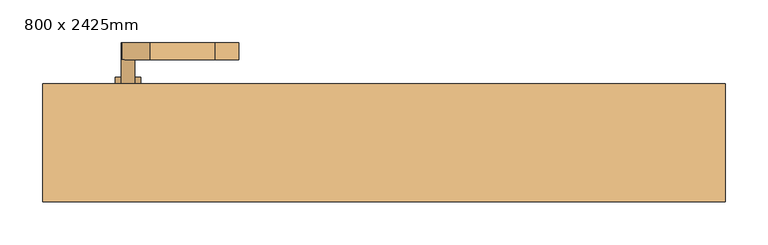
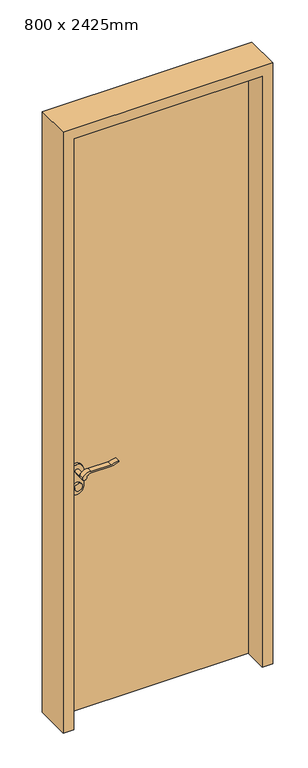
"""IFC4 building model written with IfcOpenShell, lengths in millimetres: door geometry, 单扇平开门 : 800 x 2425mm."""

from ifc_helpers import new_model, si_unit, point, frame, frame_2d, origin, origin_with_axes, place, context, project, spatial, polyline, circle_curve, trimmed, segment, composite_curve, outline, extrude, source, transform, mapped, element, save


def door_800_x_2425mm_65640e85(model_context):
    return source(origin(), model_context, "Body", "SweptSolid", [
        extrude(outline(composite_curve([segment(trimmed(circle_curve(frame_2d((904.4, -300.0)), 25.0), [point((904.4, -325.0))], [point((904.4, -275.0))], False, "CARTESIAN"), True, "CONTINUOUS"), segment(polyline([(904.4, -275.0), (974.4, -275.0)]), True, "CONTINUOUS"), segment(trimmed(circle_curve(frame_2d((974.4, -300.0)), 25.0), [point((974.4, -275.0))], [point((974.4, -325.0))], False, "CARTESIAN"), True, "CONTINUOUS"), segment(polyline([(974.4, -325.0), (904.4, -325.0)]), True, "CONTINUOUS")], self_intersect=False)), frame((0.0, 8.975, 0.0), z_axis=(0.0, 1.0, 0.0), x_axis=(0.0, 0.0, 1.0)), (0.0, 0.0, 1.0), 10.0),
        extrude(outline(composite_curve([segment(trimmed(circle_curve(frame_2d((904.4, -300.0)), 25.0), [point((904.4, -325.0))], [point((904.4, -275.0))], False, "CARTESIAN"), True, "CONTINUOUS"), segment(polyline([(904.4, -275.0), (974.4, -275.0)]), True, "CONTINUOUS"), segment(trimmed(circle_curve(frame_2d((974.4, -300.0)), 25.0), [point((974.4, -275.0))], [point((974.4, -325.0))], False, "CARTESIAN"), True, "CONTINUOUS"), segment(polyline([(974.4, -325.0), (904.4, -325.0)]), True, "CONTINUOUS")], self_intersect=False)), frame((0.0, 53.975, 0.0), z_axis=(0.0, 1.0, 0.0), x_axis=(0.0, 0.0, 1.0)), (0.0, 0.0, 1.0), 10.0),
        extrude(outline(composite_curve([segment(trimmed(circle_curve(frame_2d((974.4, -300.0)), 8.0), [point((974.4, -292.0))], [point((974.4, -308.0))], False, "CARTESIAN"), True, "CONTINUOUS"), segment(trimmed(circle_curve(frame_2d((974.4, -300.0)), 8.0), [point((974.4, -308.0))], [point((974.4, -292.0))], False, "CARTESIAN"), True, "CONTINUOUS")], self_intersect=False)), frame((0.0, -21.025, 0.0), z_axis=(0.0, 1.0, 0.0), x_axis=(0.0, 0.0, 1.0)), (0.0, 0.0, 1.0), 30.0),
        extrude(outline(composite_curve([segment(trimmed(circle_curve(frame_2d((974.4, -300.0)), 8.0), [point((974.4, -292.0))], [point((974.4, -308.0))], False, "CARTESIAN"), True, "CONTINUOUS"), segment(trimmed(circle_curve(frame_2d((974.4, -300.0)), 8.0), [point((974.4, -308.0))], [point((974.4, -292.0))], False, "CARTESIAN"), True, "CONTINUOUS")], self_intersect=False)), frame((0.0, 63.975, 0.0), z_axis=(0.0, 1.0, 0.0), x_axis=(0.0, 0.0, 1.0)), (0.0, 0.0, 1.0), 30.0),
        extrude(outline(composite_curve([segment(trimmed(circle_curve(frame_2d((969.2738682, -274.6138122)), 18.1261318), [point((974.3999903, -292.0))], [point((987.4, -274.6138122))], True, "CARTESIAN"), True, "CONTINUOUS"), segment(polyline([(987.4, -274.6138122), (987.4, -198.3564091)]), True, "CONTINUOUS"), segment(trimmed(circle_curve(frame_2d((1046.6709207, -201.9396612)), 59.3791355), [point((987.4, -198.3564091))], [point((996.6135558, -170.0))], False, "CARTESIAN"), True, "CONTINUOUS"), segment(polyline([(996.6135558, -170.0), (999.4, -170.0)]), True, "CONTINUOUS"), segment(trimmed(circle_curve(frame_2d((1077.6850638, -198.4227909)), 83.2850902), [point((999.4, -170.0))], [point((994.4, -198.3564091))], True, "CARTESIAN"), True, "CONTINUOUS"), segment(polyline([(994.4, -198.3564091), (994.4, -274.6325667)]), True, "CONTINUOUS"), segment(trimmed(circle_curve(frame_2d((957.1555521, -276.3324871)), 37.2832219), [point((994.4, -274.6325667))], [point((979.0523287, -306.5081363))], False, "CARTESIAN"), True, "CONTINUOUS"), segment(trimmed(circle_curve(frame_2d((974.4, -300.0)), 8.0), [point((979.0523287, -306.5081363))], [point((974.3999903, -292.0))], False, "CARTESIAN"), True, "CONTINUOUS")], self_intersect=False)), frame((0.0, -41.025, 0.0), z_axis=(0.0, 1.0, 0.0), x_axis=(0.0, 0.0, 1.0)), (0.0, 0.0, 1.0), 20.0),
        extrude(outline(composite_curve([segment(trimmed(circle_curve(frame_2d((974.4, -300.0)), 8.0), [point((979.0523287, -306.5081363))], [point((974.4, -292.0))], False, "CARTESIAN"), True, "CONTINUOUS"), segment(trimmed(circle_curve(frame_2d((969.2738613, -274.6138099)), 18.1261387), [point((974.4, -292.0))], [point((987.4, -274.6138099))], True, "CARTESIAN"), True, "CONTINUOUS"), segment(polyline([(987.4, -274.6138099), (987.4, -198.3564091)]), True, "CONTINUOUS"), segment(trimmed(circle_curve(frame_2d((1046.6709207, -201.9396612)), 59.3791355), [point((987.4, -198.3564091))], [point((996.6135558, -170.0))], False, "CARTESIAN"), True, "CONTINUOUS"), segment(polyline([(996.6135558, -170.0), (999.4, -170.0)]), True, "CONTINUOUS"), segment(trimmed(circle_curve(frame_2d((1077.6850638, -198.4227909)), 83.2850902), [point((999.4, -170.0))], [point((994.4, -198.3564091))], True, "CARTESIAN"), True, "CONTINUOUS"), segment(polyline([(994.4, -198.3564091), (994.4, -274.6325667)]), True, "CONTINUOUS"), segment(trimmed(circle_curve(frame_2d((957.1555521, -276.3324871)), 37.2832219), [point((994.4, -274.6325667))], [point((979.0523287, -306.5081363))], False, "CARTESIAN"), True, "CONTINUOUS")], self_intersect=False)), frame((0.0, 93.975, 0.0), z_axis=(0.0, 1.0, 0.0), x_axis=(0.0, 0.0, 1.0)), (0.0, 0.0, 1.0), 20.0),
        extrude(outline(composite_curve([segment(trimmed(circle_curve(frame_2d((914.4, -300.0)), 15.0), [point((914.4, -285.0))], [point((914.4, -315.0))], False, "CARTESIAN"), True, "CONTINUOUS"), segment(trimmed(circle_curve(frame_2d((914.4, -300.0)), 15.0), [point((914.4, -315.0))], [point((914.4, -285.0))], False, "CARTESIAN"), True, "CONTINUOUS")], self_intersect=False)), frame((0.0, -1.025, 0.0), z_axis=(0.0, 1.0, 0.0), x_axis=(0.0, 0.0, 1.0)), (0.0, 0.0, 1.0), 10.0),
        extrude(outline(composite_curve([segment(trimmed(circle_curve(frame_2d((914.4, -300.0)), 15.0), [point((914.4, -285.0))], [point((914.4, -315.0))], False, "CARTESIAN"), True, "CONTINUOUS"), segment(trimmed(circle_curve(frame_2d((914.4, -300.0)), 15.0), [point((914.4, -315.0))], [point((914.4, -285.0))], False, "CARTESIAN"), True, "CONTINUOUS")], self_intersect=False)), frame((0.0, 63.975, 0.0), z_axis=(0.0, 1.0, 0.0), x_axis=(0.0, 0.0, 1.0)), (0.0, 0.0, 1.0), 10.0),
        extrude(outline(polyline([(0.0, 360.0), (0.0, 400.0), (2425.0, 400.0), (2425.0, -400.0), (0.0, -400.0), (0.0, -360.0), (2385.0, -360.0), (2385.0, 360.0), (0.0, 360.0)])), frame((0.0, -72.175, 0.0), z_axis=(0.0, 1.0, 0.0), x_axis=(0.0, 0.0, 1.0)), (0.0, 0.0, 1.0), 138.0),
        extrude(outline(polyline([(360.0, 18.975), (-360.0, 18.975), (-360.0, 53.975), (360.0, 53.975), (360.0, 18.975)])), origin_with_axes(), (0.0, 0.0, 1.0), 2385.0),
    ])


if __name__ == "__main__":
    model = new_model("IFC4")
    model_context = context("Model", 3, world=origin())
    ifc_project = project(units=[si_unit("LENGTHUNIT", "METRE", prefix="MILLI")], contexts=[model_context])
    site = spatial("IfcSite", under=ifc_project)
    building = spatial("IfcBuilding", under=site)
    placement = place(None, origin())
    door_800_x_2425mm_shape = door_800_x_2425mm_65640e85(model_context)
    element("IfcDoor", 1, ObjectType="单扇平开门 : 800 x 2425mm", at=placement, inside=building, context=model_context, shape_type="MappedRepresentation", body=[
        mapped(door_800_x_2425mm_shape, transform((0.0, 0.0, 0.0), x_axis=(1.0, 0.0, 0.0), y_axis=(0.0, 1.0, 0.0), z_axis=(0.0, 0.0, 1.0))),
    ])
    save(model, "model.ifc")
